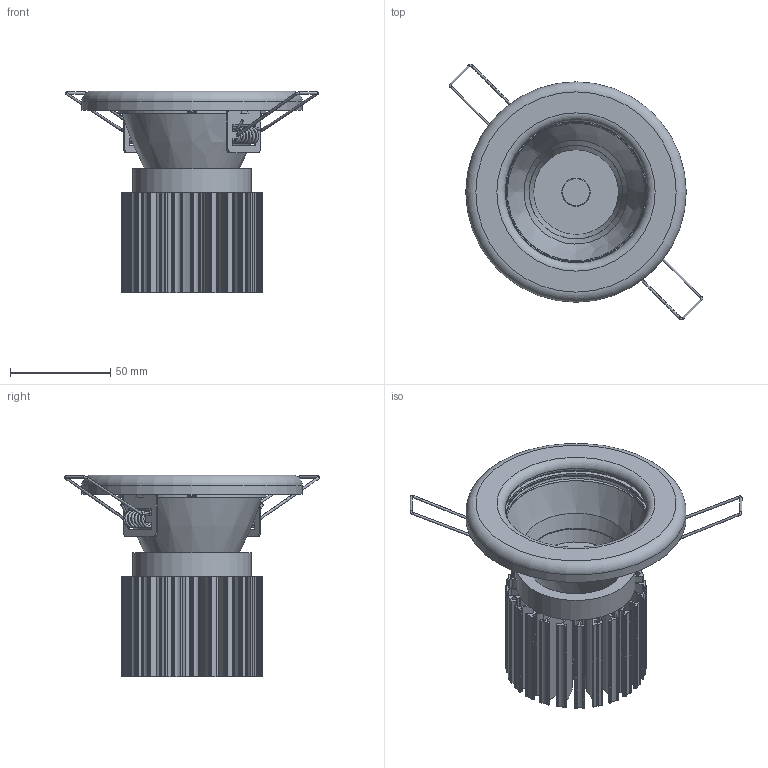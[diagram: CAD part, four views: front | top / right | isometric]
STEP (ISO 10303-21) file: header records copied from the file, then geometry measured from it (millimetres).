
FILE_DESCRIPTION(/* description */ (''),/* implementation_level */ '2;1');
FILE_NAME(/* name */ 'C:/Users/elena/OneDrive/Allegati di posta elettronica/Desktop/Iride recessed mini.step',/* time_stamp */ '2020-05-13T15:10:58+02:00',/* author */ (''),/* organization */ (''),/* preprocessor_version */ 'ST-DEVELOPER v18.1',/* originating_system */ 'Autodesk Translation Framework v9.3.0.1241',/* authorisation */ '');
FILE_SCHEMA (('AUTOMOTIVE_DESIGN { 1 0 10303 214 3 1 1 }'));
Products named in the file (1): Pubblico
Bounding box: 126.64 x 127.77 x 100.7 mm (x, y, z)
Volume: 165287.2 mm3; surface area: 120795.7 mm2
Topology: 5 solids, 5 shells, 1065 faces, 3060 edges, 2004 vertices
Faces by surface type: cylinder 668, bspline 188, plane 177, cone 24, torus 8
Full cylindrical faces by diameter (mm): 1.2 x2, 3 x4, 3.1 x4, 59 x1, 71 x1, 75 x1, 102 x1, 102.1 x1, 110 x1
Entity records: 76091 total; most frequent: CARTESIAN_POINT 48611, ORIENTED_EDGE 6120, DIRECTION 5552, EDGE_CURVE 3060, AXIS2_PLACEMENT_3D 2220, VERTEX_POINT 2004, CIRCLE 1342, LINE 1112
